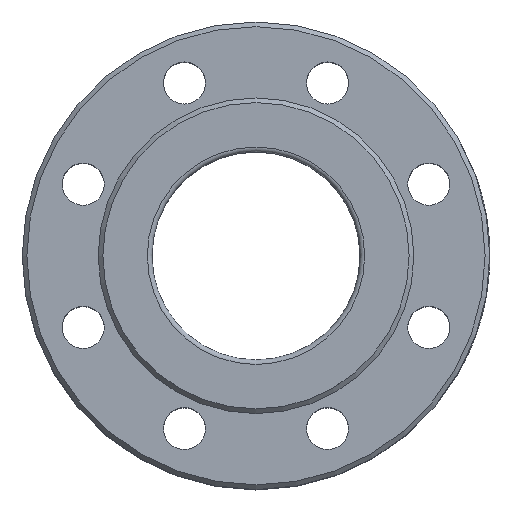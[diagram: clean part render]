
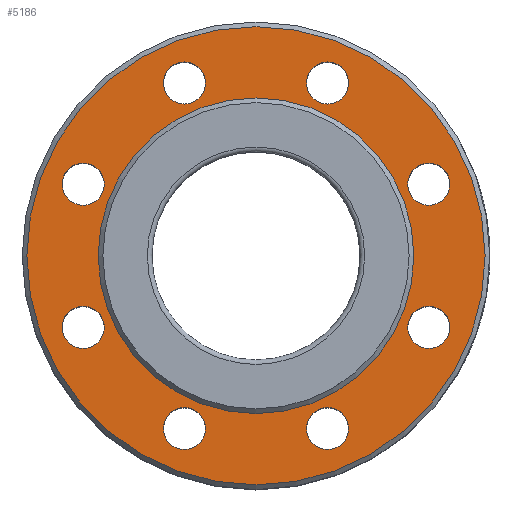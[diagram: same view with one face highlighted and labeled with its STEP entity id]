
A CAD part, top view. The second image highlights one B-rep face of the part: STEP entity #5186.
In plain terms, the highlighted planar face has unit normal (0, 0, 1).
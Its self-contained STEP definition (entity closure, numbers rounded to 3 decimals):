
#1403=FACE_BOUND('',#1991,.T.);
#1404=FACE_BOUND('',#1992,.T.);
#1405=FACE_BOUND('',#1993,.T.);
#1406=FACE_BOUND('',#1994,.T.);
#1407=FACE_BOUND('',#1995,.T.);
#1408=FACE_BOUND('',#1996,.T.);
#1409=FACE_BOUND('',#1997,.T.);
#1410=FACE_BOUND('',#1998,.T.);
#1411=FACE_BOUND('',#1999,.T.);
#1679=FACE_OUTER_BOUND('',#1990,.T.);
#1990=EDGE_LOOP('',(#4672));
#1991=EDGE_LOOP('',(#4673));
#1992=EDGE_LOOP('',(#4674));
#1993=EDGE_LOOP('',(#4675));
#1994=EDGE_LOOP('',(#4676));
#1995=EDGE_LOOP('',(#4677));
#1996=EDGE_LOOP('',(#4678));
#1997=EDGE_LOOP('',(#4679));
#1998=EDGE_LOOP('',(#4680));
#1999=EDGE_LOOP('',(#4681));
#2226=CIRCLE('',#5570,98.);
#2227=CIRCLE('',#5573,9.);
#2228=CIRCLE('',#5574,9.);
#2229=CIRCLE('',#5575,9.);
#2230=CIRCLE('',#5576,9.);
#2231=CIRCLE('',#5577,9.);
#2232=CIRCLE('',#5578,9.);
#2233=CIRCLE('',#5579,9.);
#2234=CIRCLE('',#5580,9.);
#2235=CIRCLE('',#5581,67.5);
#2716=VERTEX_POINT('',#11159);
#2717=VERTEX_POINT('',#11164);
#2718=VERTEX_POINT('',#11166);
#2719=VERTEX_POINT('',#11168);
#2720=VERTEX_POINT('',#11170);
#2721=VERTEX_POINT('',#11172);
#2722=VERTEX_POINT('',#11174);
#2723=VERTEX_POINT('',#11176);
#2724=VERTEX_POINT('',#11178);
#2725=VERTEX_POINT('',#11180);
#3378=EDGE_CURVE('',#2716,#2716,#2226,.T.);
#3380=EDGE_CURVE('',#2717,#2717,#2227,.T.);
#3381=EDGE_CURVE('',#2718,#2718,#2228,.T.);
#3382=EDGE_CURVE('',#2719,#2719,#2229,.T.);
#3383=EDGE_CURVE('',#2720,#2720,#2230,.T.);
#3384=EDGE_CURVE('',#2721,#2721,#2231,.T.);
#3385=EDGE_CURVE('',#2722,#2722,#2232,.T.);
#3386=EDGE_CURVE('',#2723,#2723,#2233,.T.);
#3387=EDGE_CURVE('',#2724,#2724,#2234,.T.);
#3388=EDGE_CURVE('',#2725,#2725,#2235,.T.);
#4672=ORIENTED_EDGE('',*,*,#3378,.T.);
#4673=ORIENTED_EDGE('',*,*,#3380,.F.);
#4674=ORIENTED_EDGE('',*,*,#3381,.F.);
#4675=ORIENTED_EDGE('',*,*,#3382,.F.);
#4676=ORIENTED_EDGE('',*,*,#3383,.F.);
#4677=ORIENTED_EDGE('',*,*,#3384,.F.);
#4678=ORIENTED_EDGE('',*,*,#3385,.F.);
#4679=ORIENTED_EDGE('',*,*,#3386,.F.);
#4680=ORIENTED_EDGE('',*,*,#3387,.F.);
#4681=ORIENTED_EDGE('',*,*,#3388,.F.);
#4942=PLANE('',#5572);
#5186=ADVANCED_FACE('',(#1679,#1403,#1404,#1405,#1406,#1407,#1408,#1409,
#1410,#1411),#4942,.F.);
#5570=AXIS2_PLACEMENT_3D('',#11160,#6604,#6605);
#5572=AXIS2_PLACEMENT_3D('',#11163,#6609,#6610);
#5573=AXIS2_PLACEMENT_3D('',#11165,#6611,#6612);
#5574=AXIS2_PLACEMENT_3D('',#11167,#6613,#6614);
#5575=AXIS2_PLACEMENT_3D('',#11169,#6615,#6616);
#5576=AXIS2_PLACEMENT_3D('',#11171,#6617,#6618);
#5577=AXIS2_PLACEMENT_3D('',#11173,#6619,#6620);
#5578=AXIS2_PLACEMENT_3D('',#11175,#6621,#6622);
#5579=AXIS2_PLACEMENT_3D('',#11177,#6623,#6624);
#5580=AXIS2_PLACEMENT_3D('',#11179,#6625,#6626);
#5581=AXIS2_PLACEMENT_3D('',#11181,#6627,#6628);
#6604=DIRECTION('center_axis',(0.,0.,1.));
#6605=DIRECTION('ref_axis',(0.,-1.,0.));
#6609=DIRECTION('center_axis',(0.,0.,-1.));
#6610=DIRECTION('ref_axis',(-1.,0.,0.));
#6611=DIRECTION('center_axis',(0.,0.,1.));
#6612=DIRECTION('ref_axis',(-1.,0.,0.));
#6613=DIRECTION('center_axis',(0.,0.,1.));
#6614=DIRECTION('ref_axis',(-1.,0.,0.));
#6615=DIRECTION('center_axis',(0.,0.,1.));
#6616=DIRECTION('ref_axis',(-1.,0.,0.));
#6617=DIRECTION('center_axis',(0.,0.,1.));
#6618=DIRECTION('ref_axis',(-1.,0.,0.));
#6619=DIRECTION('center_axis',(0.,0.,1.));
#6620=DIRECTION('ref_axis',(-1.,0.,0.));
#6621=DIRECTION('center_axis',(0.,0.,1.));
#6622=DIRECTION('ref_axis',(-1.,0.,0.));
#6623=DIRECTION('center_axis',(0.,0.,1.));
#6624=DIRECTION('ref_axis',(-1.,0.,0.));
#6625=DIRECTION('center_axis',(0.,0.,1.));
#6626=DIRECTION('ref_axis',(-1.,0.,0.));
#6627=DIRECTION('center_axis',(0.,0.,1.));
#6628=DIRECTION('ref_axis',(-1.,0.,0.));
#11159=CARTESIAN_POINT('',(0.,98.,55.));
#11160=CARTESIAN_POINT('Origin',(0.,0.,55.));
#11163=CARTESIAN_POINT('Origin',(0.,44.5,55.));
#11164=CARTESIAN_POINT('',(82.91,30.615,55.));
#11165=CARTESIAN_POINT('Origin',(73.91,30.615,55.));
#11166=CARTESIAN_POINT('',(-64.91,30.615,55.));
#11167=CARTESIAN_POINT('Origin',(-73.91,30.615,55.));
#11168=CARTESIAN_POINT('',(39.615,-73.91,55.));
#11169=CARTESIAN_POINT('Origin',(30.615,-73.91,55.));
#11170=CARTESIAN_POINT('',(-64.91,-30.615,55.));
#11171=CARTESIAN_POINT('Origin',(-73.91,-30.615,55.));
#11172=CARTESIAN_POINT('',(39.615,73.91,55.));
#11173=CARTESIAN_POINT('Origin',(30.615,73.91,55.));
#11174=CARTESIAN_POINT('',(-21.615,73.91,55.));
#11175=CARTESIAN_POINT('Origin',(-30.615,73.91,55.));
#11176=CARTESIAN_POINT('',(82.91,-30.615,55.));
#11177=CARTESIAN_POINT('Origin',(73.91,-30.615,55.));
#11178=CARTESIAN_POINT('',(-21.615,-73.91,55.));
#11179=CARTESIAN_POINT('Origin',(-30.615,-73.91,55.));
#11180=CARTESIAN_POINT('',(-67.5,0.,55.));
#11181=CARTESIAN_POINT('Origin',(0.,0.,55.));
